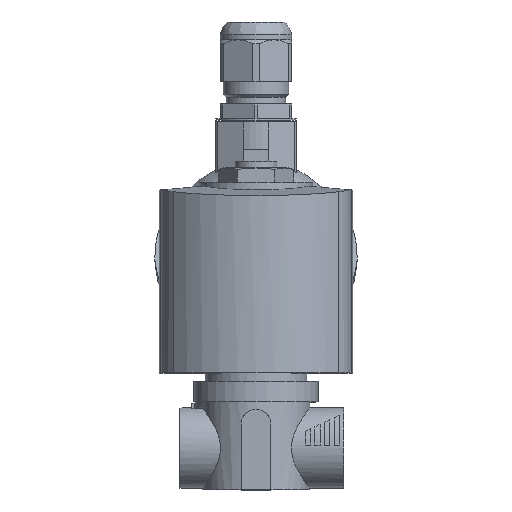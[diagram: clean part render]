
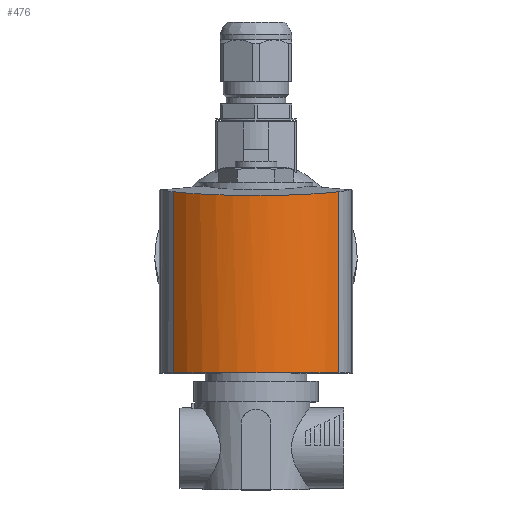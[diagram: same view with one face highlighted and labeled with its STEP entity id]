
A CAD part, top view. The second image highlights one B-rep face of the part: STEP entity #476.
In plain terms, the highlighted cylindrical face has radius 37.5 mm (diameter 75 mm), a partial arc.
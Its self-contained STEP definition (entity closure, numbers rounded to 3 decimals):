
#476 = ADVANCED_FACE( '', ( #1063 ), #1064, .T. );
#1063 = FACE_OUTER_BOUND( '', #1806, .T. );
#1064 = CYLINDRICAL_SURFACE( '', #1807, 37.5 );
#1806 = EDGE_LOOP( '', ( #3020, #3021, #3022, #3023 ) );
#1807 = AXIS2_PLACEMENT_3D( '', #3024, #3025, #3026 );
#3020 = ORIENTED_EDGE( '', *, *, #4061, .F. );
#3021 = ORIENTED_EDGE( '', *, *, #4167, .T. );
#3022 = ORIENTED_EDGE( '', *, *, #4194, .T. );
#3023 = ORIENTED_EDGE( '', *, *, #4461, .F. );
#3024 = CARTESIAN_POINT( '', ( 0., 23.3, 0. ) );
#3025 = DIRECTION( '', ( 0., 1., 0. ) );
#3026 = DIRECTION( '', ( 0., 0., -1. ) );
#4061 = EDGE_CURVE( '', #4809, #4811, #4812, .T. );
#4167 = EDGE_CURVE( '', #4809, #4991, #4993, .T. );
#4194 = EDGE_CURVE( '', #4991, #5039, #5041, .T. );
#4461 = EDGE_CURVE( '', #4811, #5039, #5453, .T. );
#4809 = VERTEX_POINT( '', #5880 );
#4811 = VERTEX_POINT( '', #5882 );
#4812 = ELLIPSE( '', #5883, 37.707, 37.5 );
#4991 = VERTEX_POINT( '', #6272 );
#4993 = LINE( '', #6274, #6275 );
#5039 = VERTEX_POINT( '', #6350 );
#5041 = CIRCLE( '', #6352, 37.5 );
#5453 = LINE( '', #7130, #7131 );
#5880 = CARTESIAN_POINT( '', ( 25.178, 21.389, 27.79 ) );
#5882 = CARTESIAN_POINT( '', ( 25.178, 21.389, -27.79 ) );
#5883 = AXIS2_PLACEMENT_3D( '', #7672, #7673, #7674 );
#6272 = CARTESIAN_POINT( '', ( 25.178, -39.4, 27.79 ) );
#6274 = CARTESIAN_POINT( '', ( 25.178, 23.3, 27.79 ) );
#6275 = VECTOR( '', #7811, 1000. );
#6350 = CARTESIAN_POINT( '', ( 25.178, -39.4, -27.79 ) );
#6352 = AXIS2_PLACEMENT_3D( '', #7842, #7843, #7844 );
#7130 = CARTESIAN_POINT( '', ( 25.178, 23.3, -27.79 ) );
#7131 = VECTOR( '', #8222, 1000. );
#7672 = CARTESIAN_POINT( '', ( 0., 24.036, 0. ) );
#7673 = DIRECTION( '', ( 0.105, 0.995, 0. ) );
#7674 = DIRECTION( '', ( 0.995, -0.105, 0. ) );
#7811 = DIRECTION( '', ( 0., -1., 0. ) );
#7842 = CARTESIAN_POINT( '', ( 0., -39.4, 0. ) );
#7843 = DIRECTION( '', ( 0., 1., 0. ) );
#7844 = DIRECTION( '', ( 1., 0., 0. ) );
#8222 = DIRECTION( '', ( 0., -1., 0. ) );
